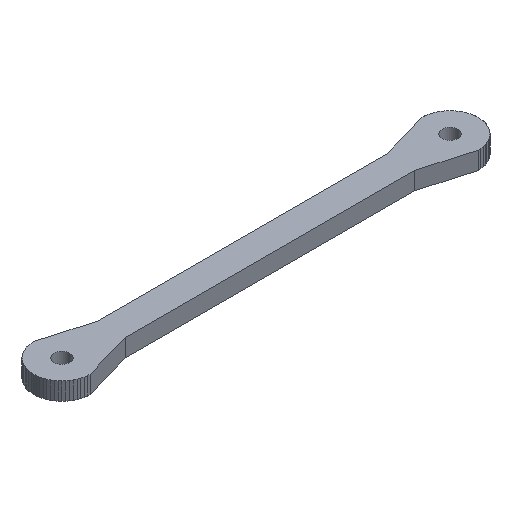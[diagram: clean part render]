
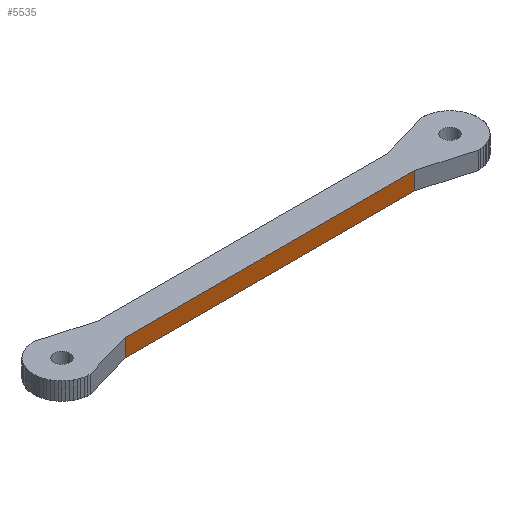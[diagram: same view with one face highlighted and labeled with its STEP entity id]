
A CAD part, isometric view. The second image highlights one B-rep face of the part: STEP entity #5535.
In plain terms, the highlighted planar face has unit normal (0, -1, 0).
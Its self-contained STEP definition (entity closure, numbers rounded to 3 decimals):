
#72 = PLANE('',#73);
#73 = AXIS2_PLACEMENT_3D('',#74,#75,#76);
#74 = CARTESIAN_POINT('',(55.,0.,5.));
#75 = DIRECTION('',(0.,0.,1.));
#76 = DIRECTION('',(1.,0.,-0.));
#126 = PLANE('',#127);
#127 = AXIS2_PLACEMENT_3D('',#128,#129,#130);
#128 = CARTESIAN_POINT('',(55.,0.,0.));
#129 = DIRECTION('',(0.,0.,1.));
#130 = DIRECTION('',(1.,0.,-0.));
#1131 = VERTEX_POINT('',#1132);
#1132 = CARTESIAN_POINT('',(14.,-4.,0.));
#1146 = PLANE('',#1147);
#1147 = AXIS2_PLACEMENT_3D('',#1148,#1149,#1150);
#1148 = CARTESIAN_POINT('',(0.,-8.,0.));
#1149 = DIRECTION('',(-0.275,0.962,0.));
#1150 = DIRECTION('',(0.962,0.275,0.));
#1158 = EDGE_CURVE('',#1131,#1159,#1161,.T.);
#1159 = VERTEX_POINT('',#1160);
#1160 = CARTESIAN_POINT('',(96.,-4.,0.));
#1161 = SURFACE_CURVE('',#1162,(#1166,#1173),.PCURVE_S1.);
#1162 = LINE('',#1163,#1164);
#1163 = CARTESIAN_POINT('',(14.,-4.,0.));
#1164 = VECTOR('',#1165,1.);
#1165 = DIRECTION('',(1.,0.,0.));
#1166 = PCURVE('',#126,#1167);
#1167 = DEFINITIONAL_REPRESENTATION('',(#1168),#1172);
#1168 = LINE('',#1169,#1170);
#1169 = CARTESIAN_POINT('',(-41.,-4.));
#1170 = VECTOR('',#1171,1.);
#1171 = DIRECTION('',(1.,0.));
#1172 = ( GEOMETRIC_REPRESENTATION_CONTEXT(2) 
PARAMETRIC_REPRESENTATION_CONTEXT() REPRESENTATION_CONTEXT('2D SPACE',''
  ) );
#1173 = PCURVE('',#1174,#1179);
#1174 = PLANE('',#1175);
#1175 = AXIS2_PLACEMENT_3D('',#1176,#1177,#1178);
#1176 = CARTESIAN_POINT('',(14.,-4.,0.));
#1177 = DIRECTION('',(0.,1.,0.));
#1178 = DIRECTION('',(1.,0.,0.));
#1179 = DEFINITIONAL_REPRESENTATION('',(#1180),#1184);
#1180 = LINE('',#1181,#1182);
#1181 = CARTESIAN_POINT('',(0.,0.));
#1182 = VECTOR('',#1183,1.);
#1183 = DIRECTION('',(1.,0.));
#1184 = ( GEOMETRIC_REPRESENTATION_CONTEXT(2) 
PARAMETRIC_REPRESENTATION_CONTEXT() REPRESENTATION_CONTEXT('2D SPACE',''
  ) );
#1202 = PLANE('',#1203);
#1203 = AXIS2_PLACEMENT_3D('',#1204,#1205,#1206);
#1204 = CARTESIAN_POINT('',(96.,-4.,0.));
#1205 = DIRECTION('',(0.275,0.962,-0.));
#1206 = DIRECTION('',(0.962,-0.275,0.));
#2926 = VERTEX_POINT('',#2927);
#2927 = CARTESIAN_POINT('',(14.,-4.,5.));
#2948 = EDGE_CURVE('',#2926,#2949,#2951,.T.);
#2949 = VERTEX_POINT('',#2950);
#2950 = CARTESIAN_POINT('',(96.,-4.,5.));
#2951 = SURFACE_CURVE('',#2952,(#2956,#2963),.PCURVE_S1.);
#2952 = LINE('',#2953,#2954);
#2953 = CARTESIAN_POINT('',(14.,-4.,5.));
#2954 = VECTOR('',#2955,1.);
#2955 = DIRECTION('',(1.,0.,0.));
#2956 = PCURVE('',#72,#2957);
#2957 = DEFINITIONAL_REPRESENTATION('',(#2958),#2962);
#2958 = LINE('',#2959,#2960);
#2959 = CARTESIAN_POINT('',(-41.,-4.));
#2960 = VECTOR('',#2961,1.);
#2961 = DIRECTION('',(1.,0.));
#2962 = ( GEOMETRIC_REPRESENTATION_CONTEXT(2) 
PARAMETRIC_REPRESENTATION_CONTEXT() REPRESENTATION_CONTEXT('2D SPACE',''
  ) );
#2963 = PCURVE('',#1174,#2964);
#2964 = DEFINITIONAL_REPRESENTATION('',(#2965),#2969);
#2965 = LINE('',#2966,#2967);
#2966 = CARTESIAN_POINT('',(0.,-5.));
#2967 = VECTOR('',#2968,1.);
#2968 = DIRECTION('',(1.,0.));
#2969 = ( GEOMETRIC_REPRESENTATION_CONTEXT(2) 
PARAMETRIC_REPRESENTATION_CONTEXT() REPRESENTATION_CONTEXT('2D SPACE',''
  ) );
#5487 = EDGE_CURVE('',#1131,#2926,#5488,.T.);
#5488 = SURFACE_CURVE('',#5489,(#5493,#5500),.PCURVE_S1.);
#5489 = LINE('',#5490,#5491);
#5490 = CARTESIAN_POINT('',(14.,-4.,0.));
#5491 = VECTOR('',#5492,1.);
#5492 = DIRECTION('',(0.,0.,1.));
#5493 = PCURVE('',#1146,#5494);
#5494 = DEFINITIONAL_REPRESENTATION('',(#5495),#5499);
#5495 = LINE('',#5496,#5497);
#5496 = CARTESIAN_POINT('',(14.56,0.));
#5497 = VECTOR('',#5498,1.);
#5498 = DIRECTION('',(0.,-1.));
#5499 = ( GEOMETRIC_REPRESENTATION_CONTEXT(2) 
PARAMETRIC_REPRESENTATION_CONTEXT() REPRESENTATION_CONTEXT('2D SPACE',''
  ) );
#5500 = PCURVE('',#1174,#5501);
#5501 = DEFINITIONAL_REPRESENTATION('',(#5502),#5506);
#5502 = LINE('',#5503,#5504);
#5503 = CARTESIAN_POINT('',(0.,0.));
#5504 = VECTOR('',#5505,1.);
#5505 = DIRECTION('',(0.,-1.));
#5506 = ( GEOMETRIC_REPRESENTATION_CONTEXT(2) 
PARAMETRIC_REPRESENTATION_CONTEXT() REPRESENTATION_CONTEXT('2D SPACE',''
  ) );
#5535 = ADVANCED_FACE('',(#5536),#1174,.F.);
#5536 = FACE_BOUND('',#5537,.F.);
#5537 = EDGE_LOOP('',(#5538,#5539,#5540,#5561));
#5538 = ORIENTED_EDGE('',*,*,#5487,.T.);
#5539 = ORIENTED_EDGE('',*,*,#2948,.T.);
#5540 = ORIENTED_EDGE('',*,*,#5541,.F.);
#5541 = EDGE_CURVE('',#1159,#2949,#5542,.T.);
#5542 = SURFACE_CURVE('',#5543,(#5547,#5554),.PCURVE_S1.);
#5543 = LINE('',#5544,#5545);
#5544 = CARTESIAN_POINT('',(96.,-4.,0.));
#5545 = VECTOR('',#5546,1.);
#5546 = DIRECTION('',(0.,0.,1.));
#5547 = PCURVE('',#1174,#5548);
#5548 = DEFINITIONAL_REPRESENTATION('',(#5549),#5553);
#5549 = LINE('',#5550,#5551);
#5550 = CARTESIAN_POINT('',(82.,0.));
#5551 = VECTOR('',#5552,1.);
#5552 = DIRECTION('',(0.,-1.));
#5553 = ( GEOMETRIC_REPRESENTATION_CONTEXT(2) 
PARAMETRIC_REPRESENTATION_CONTEXT() REPRESENTATION_CONTEXT('2D SPACE',''
  ) );
#5554 = PCURVE('',#1202,#5555);
#5555 = DEFINITIONAL_REPRESENTATION('',(#5556),#5560);
#5556 = LINE('',#5557,#5558);
#5557 = CARTESIAN_POINT('',(0.,0.));
#5558 = VECTOR('',#5559,1.);
#5559 = DIRECTION('',(0.,-1.));
#5560 = ( GEOMETRIC_REPRESENTATION_CONTEXT(2) 
PARAMETRIC_REPRESENTATION_CONTEXT() REPRESENTATION_CONTEXT('2D SPACE',''
  ) );
#5561 = ORIENTED_EDGE('',*,*,#1158,.F.);
